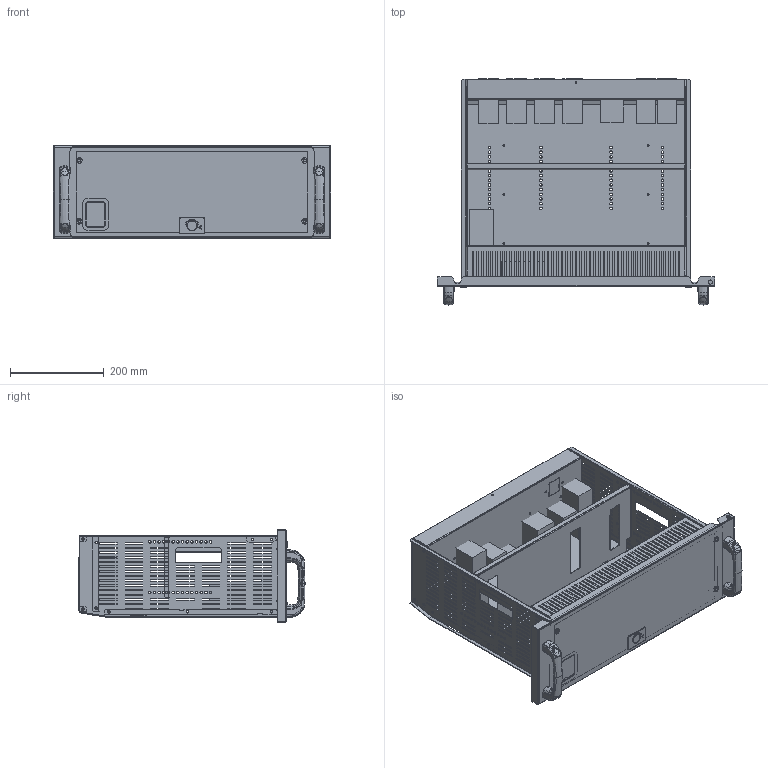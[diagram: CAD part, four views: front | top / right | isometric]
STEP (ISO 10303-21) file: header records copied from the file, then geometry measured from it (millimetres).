
FILE_DESCRIPTION(('CAx-IF Rec.Pracs.---Model Styling and Organization---1.2---2011-12-15','CAx-IF Rec.Pracs.---Geometric and Assembly Validation Properties---4.1---2014-06-16','CAx-IF Rec.Pracs.---PMI Polyline Presentation---2.0---2013-05-24'),'2;1');
FILE_NAME('4М1.stp','2021-05-05T11:47:22+03:00',(''),(''),'STEP Interface 4.4 by CT CoreTechnologie','3D_Evolution4.4 by CT CoreTechnologie','');
FILE_SCHEMA(('AUTOMOTIVE_DESIGN { 1 0 10303 214 1 1 1 1 }'));
Length unit declared in the file: millimetre
Products named in the file (34): 4Ì1; RB.1505.00.00.0 ÑÁ_2; RB.1505.00.01.0_2; Ì4-GOST R 50273-92 (DIN 985)_stright DIN EN ISO 10511 - M4 - N; R5M2W3M1BR22_R5MW31BR22; RB.1506.00.00.0_-03; âòû÷íûå; RB.1499.00.00.0 ÑÁ_-01; RB.1499.00.01.0_-01; M6 art.MGR-MKO-0625_2¬¬; RB.1501.00.00.0 ÑÁ_-01; RB.1501.00.01.0_-01; RB.1356.00.00.0; RB.1511.00.00.0_-01; RB.1166.00.00.0 ÑÁ_-01; PF 7x14 RAMmcc 2.0_4å1; AC00C061_AC00C061; Ì6õ12-A5100231_straight; PF 3.5x7 RAMmcc 2.0_00; RB.1166.00.01.0_-01; RB.1166.00.02.0_¢ à 1; RB.1166.00.03.0_-00; RB.1166.00.04.0_-00; M6x12 (A1100001)_stright; 6-GOST 11371-78 (DIN 125) PA 6.6_6-GOST 11371-78 (DIN 125) PA 6.6; ñèãíàëüíûå; áëîêèðîâêà ìåõàíèçì; ìåõàíèçì; êíîïêà; M6x20 GOST 17475-80 (DIN 965)_stright; 4.444.002(1); PR.DT477.120.02-poprawa; PR.DT477.120.01; 4.444.002(2)
Assembly tree (55 placements, depth 3):
  4Ì1
    RB.1505.00.00.0 ÑÁ_2
      RB.1505.00.01.0_2
      Ì4-GOST R 50273-92 (DIN 985)_stright DIN EN ISO 10511 - M4 - N
    R5M2W3M1BR22_R5MW31BR22
      RB.1506.00.00.0_-03
    âòû÷íûå  x7
    RB.1499.00.00.0 ÑÁ_-01
      RB.1499.00.01.0_-01
      M6 art.MGR-MKO-0625_2¬¬  x2
    RB.1501.00.00.0 ÑÁ_-01
      RB.1501.00.01.0_-01
      M6 art.MGR-MKO-0625_2¬¬  x2
    RB.1356.00.00.0
    RB.1511.00.00.0_-01
    RB.1166.00.00.0 ÑÁ_-01
      PF 7x14 RAMmcc 2.0_4å1
      AC00C061_AC00C061
      Ì6õ12-A5100231_straight
      PF 3.5x7 RAMmcc 2.0_00
      RB.1166.00.01.0_-01
      RB.1166.00.02.0_¢ à 1
      RB.1166.00.03.0_-00
      RB.1166.00.04.0_-00
    M6x12 (A1100001)_stright  x4
    6-GOST 11371-78 (DIN 125) PA 6.6_6-GOST 11371-78 (DIN 125) PA 6.6  x4
    ñèãíàëüíûå
    áëîêèðîâêà ìåõàíèçì
    ìåõàíèçì
    êíîïêà
    M6x20 GOST 17475-80 (DIN 965)_stright  x4
    4.444.002(1)
      PR.DT477.120.02-poprawa  x2
      PR.DT477.120.01
    4.444.002(2)
      PR.DT477.120.02-poprawa  x2
      PR.DT477.120.01
Bounding box: 594 x 483.5 x 197 mm (x, y, z)
Surface area: 1847366.7 mm2 (no closed solid volume)
Topology: 0 solids, 60 shells, 3635 faces, 9841 edges, 6251 vertices
Faces by surface type: plane 1850, bspline 914, cylinder 871
Entity records: 120453 total; most frequent: CARTESIAN_POINT 26698, ORIENTED_EDGE 14884, DIRECTION 13972, EDGE_CURVE 7442, VECTOR 5204, LINE 5204, VERTEX_POINT 4833, AXIS2_PLACEMENT_3D 4384
